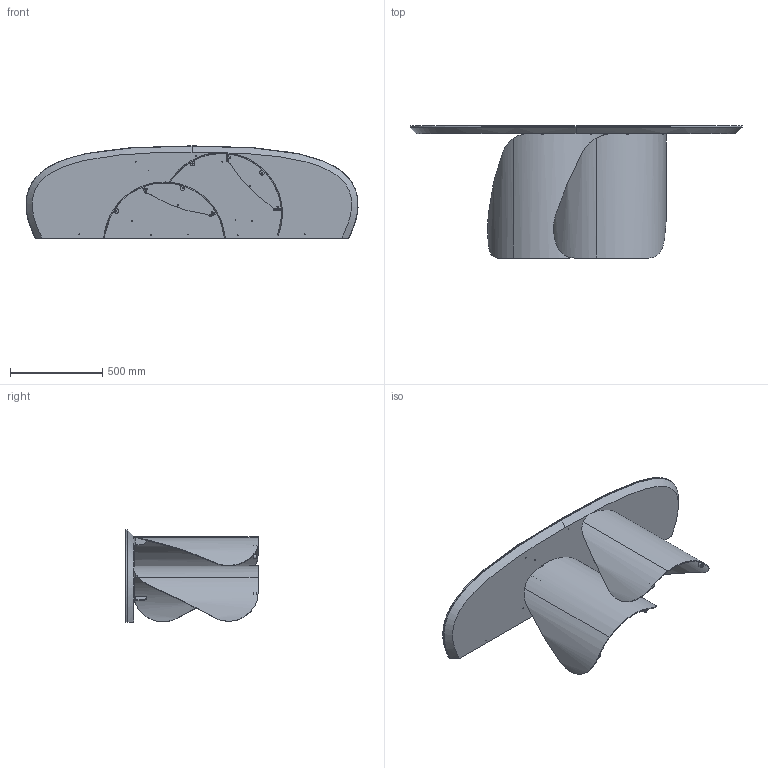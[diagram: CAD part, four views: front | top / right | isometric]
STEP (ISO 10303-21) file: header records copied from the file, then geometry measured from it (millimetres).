
FILE_DESCRIPTION (( 'STEP AP203' ), '1' );
FILE_NAME ('ON61C_Onda Console_180x50x72h_Ceramic Shaped.STEP', '2024-08-06T09:48:11', ( '' ), ( '' ), 'SwSTEP 2.0', 'SolidWorks 2022', '' );
FILE_SCHEMA (( 'CONFIG_CONTROL_DESIGN' ));
Length unit declared in the file: millimetre
Products named in the file (8): KXXXX-00-piani CERAMICA Sasso per console_180X50; Kxx-00-Piano in ceramica_180x50; ON61C_Onda Console_180x50x72h_Ceramic Shaped; OND000000_01-00-PIASTRA SUPERIORE BASE ONDA; OND000000_02-00-CILINDRO DI FISSAGGIO Ø25X17 M8; OND000000-03-ONDA BASE GREZZA; OND000000_03-00-LAMIERA CURVATA PRINCIPALE_OND00000X-00-ONDA BASE GREZZA PROTOTIPO; TRU000XXX-01-Sottopiano per ceramica_180x50
Assembly tree (9 placements, depth 3):
  ON61C_Onda Console_180x50x72h_Ceramic Shaped
    KXXXX-00-piani CERAMICA Sasso per console_180X50
      Kxx-00-Piano in ceramica_180x50
      TRU000XXX-01-Sottopiano per ceramica_180x50
    OND000000-03-ONDA BASE GREZZA  x2
      OND000000_03-00-LAMIERA CURVATA PRINCIPALE_OND00000X-00-ONDA BASE GREZZA PROTOTIPO
      OND000000_01-00-PIASTRA SUPERIORE BASE ONDA
      OND000000_02-00-CILINDRO DI FISSAGGIO Ø25X17 M8
Bounding box: 1799.16 x 716 x 500 mm (x, y, z)
Volume: 37308287.5 mm3; surface area: 5631997.8 mm2
Topology: 10 solids, 10 shells, 282 faces, 713 edges, 431 vertices
Faces by surface type: cylinder 130, plane 66, bspline 46, cone 40
Entity records: 9095 total; most frequent: CARTESIAN_POINT 4119, ORIENTED_EDGE 844, DIRECTION 835, EDGE_CURVE 422, AXIS2_PLACEMENT_3D 333, VERTEX_POINT 269, EDGE_LOOP 213, ADVANCED_FACE 183
